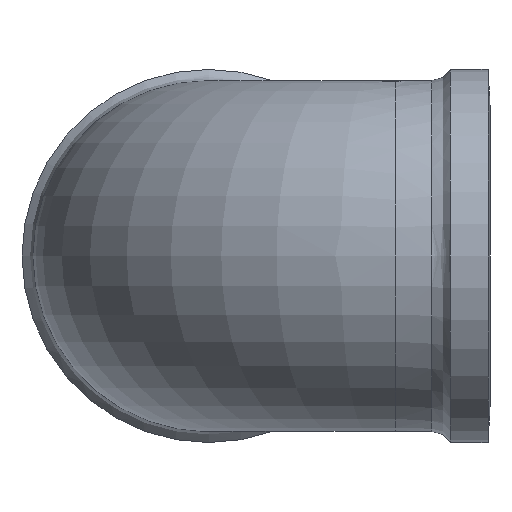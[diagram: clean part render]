
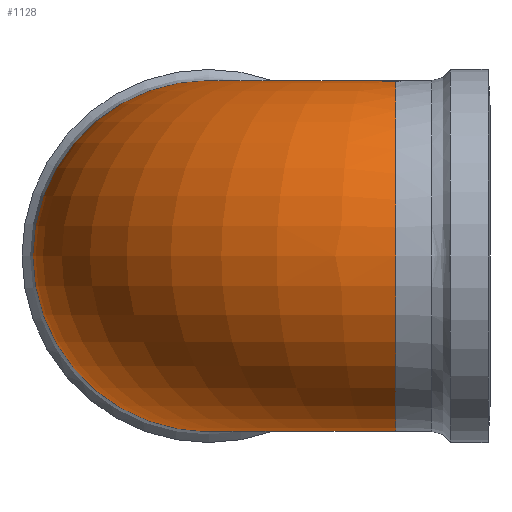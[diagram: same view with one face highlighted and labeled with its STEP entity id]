
A CAD part, left-side view. The second image highlights one B-rep face of the part: STEP entity #1128.
In plain terms, the highlighted toroidal (fillet/blend) face has major radius 52 mm and minor radius 48.75 mm.
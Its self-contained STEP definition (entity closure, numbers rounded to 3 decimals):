
#822=CARTESIAN_POINT('',(6.633,27.106,48.298));
#823=VERTEX_POINT('',#822);
#830=CARTESIAN_POINT('',(0.335,34.103,48.749));
#831=VERTEX_POINT('',#830);
#832=CARTESIAN_POINT('',(0.335,34.103,48.749));
#833=CARTESIAN_POINT('',(0.592,33.818,48.751));
#834=CARTESIAN_POINT('',(0.846,33.535,48.75));
#835=CARTESIAN_POINT('',(1.107,33.246,48.746));
#836=CARTESIAN_POINT('',(2.455,31.748,48.726));
#837=CARTESIAN_POINT('',(3.907,30.135,48.628));
#838=CARTESIAN_POINT('',(5.35,28.531,48.462));
#839=CARTESIAN_POINT('',(5.78,28.054,48.412));
#840=CARTESIAN_POINT('',(6.208,27.578,48.357));
#841=CARTESIAN_POINT('',(6.633,27.106,48.298));
#842=B_SPLINE_CURVE_WITH_KNOTS('',3,(#832,#833,#834,#835,#836,#837,#838,#839,#840,#841),.UNSPECIFIED.,.F.,.U.,(4,3,3,4),(42.279,42.394,42.984,43.16),.UNSPECIFIED.);
#843=EDGE_CURVE('',#831,#823,#842,.T.);
#878=CARTESIAN_POINT('',(5.818,26.2,48.402));
#879=VERTEX_POINT('',#878);
#887=CARTESIAN_POINT('',(6.633,27.106,48.298));
#888=CARTESIAN_POINT('',(6.363,26.806,48.334));
#889=CARTESIAN_POINT('',(6.091,26.503,48.369));
#890=CARTESIAN_POINT('',(5.818,26.2,48.402));
#891=B_SPLINE_CURVE_WITH_KNOTS('',3,(#887,#888,#889,#890),.UNSPECIFIED.,.F.,.U.,(4,4),(2.807,2.92),.UNSPECIFIED.);
#892=EDGE_CURVE('',#823,#879,#891,.T.);
#920=CARTESIAN_POINT('',(-5.962,27.106,48.383));
#921=VERTEX_POINT('',#920);
#922=CARTESIAN_POINT('',(-5.962,27.106,48.383));
#923=CARTESIAN_POINT('',(-3.806,29.501,48.645));
#924=CARTESIAN_POINT('',(-1.677,31.867,48.74));
#925=CARTESIAN_POINT('',(0.335,34.103,48.749));
#926=B_SPLINE_CURVE_WITH_KNOTS('',3,(#922,#923,#924,#925),.UNSPECIFIED.,.F.,.U.,(4,4),(40.535,41.431),.UNSPECIFIED.);
#927=EDGE_CURVE('',#921,#831,#926,.T.);
#953=CARTESIAN_POINT('',(-5.147,26.2,48.477));
#954=VERTEX_POINT('',#953);
#955=CARTESIAN_POINT('',(-5.147,26.2,48.477));
#956=CARTESIAN_POINT('',(-5.418,26.501,48.449));
#957=CARTESIAN_POINT('',(-5.69,26.803,48.417));
#958=CARTESIAN_POINT('',(-5.962,27.106,48.383));
#959=B_SPLINE_CURVE_WITH_KNOTS('',3,(#955,#956,#957,#958),.UNSPECIFIED.,.F.,.U.,(4,4),(3.604,3.717),.UNSPECIFIED.);
#960=EDGE_CURVE('',#954,#921,#959,.T.);
#1099=CARTESIAN_POINT('',(52.,26.2,0.0));
#1100=DIRECTION('',(0.0,0.0,-1.0));
#1101=DIRECTION('',(-1.0,0.0,0.0));
#1102=AXIS2_PLACEMENT_3D('',#1099,#1100,#1101);
#1103=TOROIDAL_SURFACE('',#1102,52.,48.75);
#1104=CARTESIAN_POINT('',(52.,126.95,0.));
#1105=VERTEX_POINT('',#1104);
#1106=CARTESIAN_POINT('',(52.,78.2,0.0));
#1107=DIRECTION('',(-1.0,0.0,0.0));
#1108=DIRECTION('',(0.0,-1.0,0.0));
#1109=AXIS2_PLACEMENT_3D('',#1106,#1107,#1108);
#1110=CIRCLE('',#1109,48.75);
#1111=EDGE_CURVE('',#1105,#1105,#1110,.T.);
#1112=ORIENTED_EDGE('',*,*,#1111,.T.);
#1113=EDGE_LOOP('',(#1112));
#1114=FACE_OUTER_BOUND('',#1113,.T.);
#1115=ORIENTED_EDGE('',*,*,#960,.T.);
#1116=ORIENTED_EDGE('',*,*,#927,.T.);
#1117=ORIENTED_EDGE('',*,*,#843,.T.);
#1118=ORIENTED_EDGE('',*,*,#892,.T.);
#1119=CARTESIAN_POINT('',(0.0,26.2,0.0));
#1120=DIRECTION('',(0.0,-1.0,0.0));
#1121=DIRECTION('',(1.0,0.0,0.0));
#1122=AXIS2_PLACEMENT_3D('',#1119,#1120,#1121);
#1123=CIRCLE('',#1122,48.75);
#1124=EDGE_CURVE('',#954,#879,#1123,.T.);
#1125=ORIENTED_EDGE('',*,*,#1124,.F.);
#1126=EDGE_LOOP('',(#1115,#1116,#1117,#1118,#1125));
#1127=FACE_BOUND('',#1126,.T.);
#1128=ADVANCED_FACE('',(#1114,#1127),#1103,.T.);
